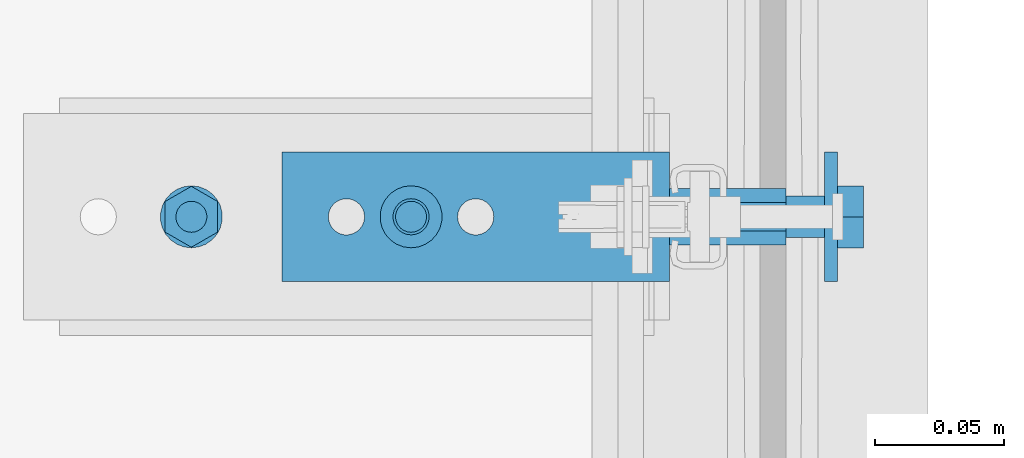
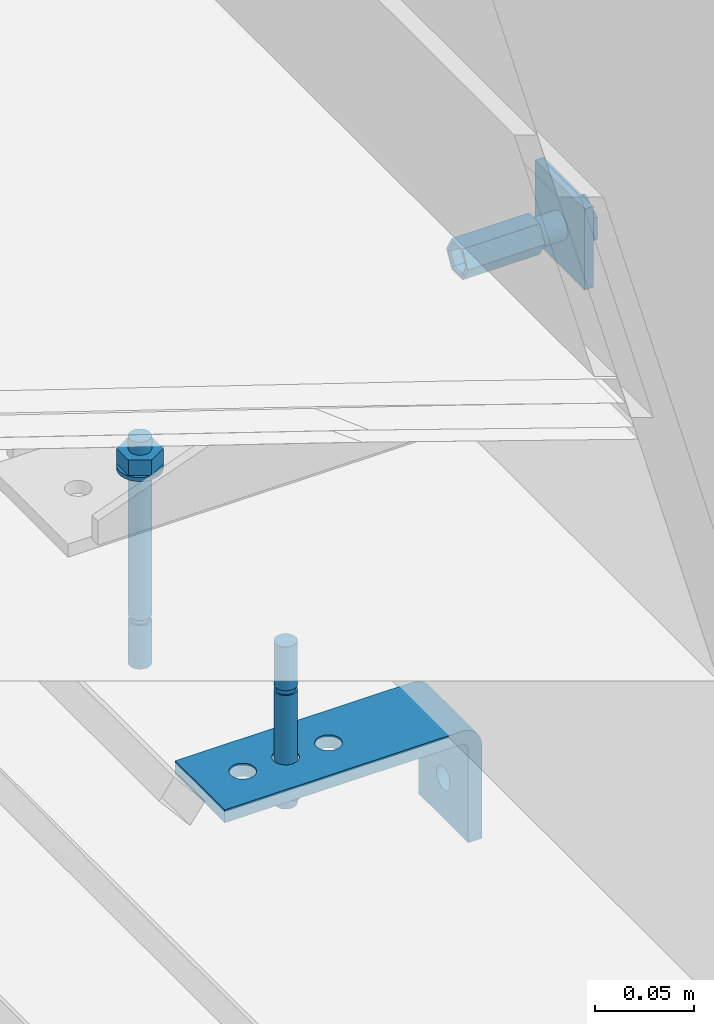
# One storey, part 2 of 17: 4 assemblies, 4 openings.
"""IFC2X3 building model written with IfcOpenShell, lengths in metres."""

from ifc_helpers import new_model, entity, si_unit, converted_unit, derived_unit, direction, frame, frame_2d, origin, place, context, subcontext, project, spatial, polyline, circle_curve, parameter, trimmed, segment, composite_curve, circle, hollow_circle, outline, extrude, faceted_brep, source, transform, mapped, material, type_object, type_shapes, element, save


model = new_model("IFC2X3")

# Units and contexts
model_context = context("Model", 3, precision=1e-05, world=origin(), true_north=direction((6.123031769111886e-17, 1.0)))
plan_context = context("Plan", 3, precision=1e-05, world=origin(), true_north=direction((6.123031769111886e-17, 1.0)))
body_context = subcontext(model_context, "Body", "Model", "MODEL_VIEW")
ifc_project = project(units=[si_unit("LENGTHUNIT", "METRE"), si_unit("AREAUNIT", "SQUARE_METRE"), converted_unit("PLANEANGLEUNIT", "DEGREE", entity("IfcPlaneAngleMeasure", 0.017453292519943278), si_unit("PLANEANGLEUNIT", "RADIAN"), dimensions=[0, 0, 0, 0, 0, 0, 0]), si_unit("VOLUMEUNIT", "CUBIC_METRE"), derived_unit("THERMALTRANSMITTANCEUNIT", [(si_unit("MASSUNIT", "GRAM", prefix="KILO"), 1), (si_unit("THERMODYNAMICTEMPERATUREUNIT", "KELVIN"), -1), (si_unit("TIMEUNIT", "SECOND"), -3)]), derived_unit("USERDEFINED", [(si_unit("MASSUNIT", "GRAM", prefix="KILO"), 1), (si_unit("THERMODYNAMICTEMPERATUREUNIT", "KELVIN"), -1), (si_unit("TIMEUNIT", "SECOND"), -2)]), derived_unit("THERMALRESISTANCEUNIT", [(si_unit("MASSUNIT", "GRAM", prefix="KILO"), -1), (si_unit("TIMEUNIT", "SECOND"), 3), (si_unit("THERMODYNAMICTEMPERATUREUNIT", "KELVIN"), 1)]), si_unit("PRESSUREUNIT", "PASCAL"), derived_unit("MASSDENSITYUNIT", [(si_unit("MASSUNIT", "GRAM", prefix="KILO"), 1), (si_unit("LENGTHUNIT", "METRE"), -3)]), derived_unit("VAPORPERMEABILITYUNIT", [(si_unit("LENGTHUNIT", "METRE"), -1), (si_unit("TIMEUNIT", "SECOND"), 1)]), derived_unit("USERDEFINED", [(si_unit("MASSUNIT", "GRAM", prefix="KILO"), 1), (si_unit("TIMEUNIT", "SECOND"), -3), (si_unit("LENGTHUNIT", "METRE"), 3), (si_unit("ELECTRICCURRENTUNIT", "AMPERE"), -2)])], contexts=[model_context, plan_context])

# Site, building, storey
site_placement = place(None, origin())
site = spatial("IfcSite", under=ifc_project, at=site_placement, Name="Default", CompositionType="ELEMENT")
building_placement = place(site_placement, origin())
building = spatial("IfcBuilding", under=site, at=building_placement, CompositionType="ELEMENT")
storey_placement = place(building_placement, origin())
storey = spatial("IfcBuildingStorey", under=building, at=storey_placement, Name="L0", CompositionType="ELEMENT", Elevation=0.0)

# Assemblies
ifc_material = material(Name="REC_Acero, S 275JR (Zincado)")
type_product_1 = type_object("IfcTypeProduct", Name="REC-HBP M16-75 EV:HBP M16-75 EV", material=ifc_material)
shared_shape_1 = source(origin(), body_context, "Body", "Brep", [
    faceted_brep([(-0.010999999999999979, 0.0, 0.0), (-0.009199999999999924, 0.0, 0.0), (-0.005499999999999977, 0.009526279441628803, 0.0), (-0.005500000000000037, -0.009526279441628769, 0.0), (-0.004600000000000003, -0.007967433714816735, 0.0), (0.004599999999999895, -0.007967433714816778, 0.0), (0.005499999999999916, -0.009526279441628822, 0.0), (0.00919999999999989, 0.0, 0.0), (0.010999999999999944, 0.0, 0.0), (0.0054999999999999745, 0.009526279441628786, 0.0), (0.004599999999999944, 0.00796743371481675, 0.0), (-0.004599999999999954, 0.007967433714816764, 0.0), (0.0039999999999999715, 0.006928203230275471, -0.0008571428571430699), (0.007999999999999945, 0.0, -0.0008571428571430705), (-0.003999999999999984, 0.006928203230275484, -0.0008571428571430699), (-0.007999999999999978, 0.0, -0.0008571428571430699), (-0.004000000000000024, -0.006928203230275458, -0.0008571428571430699), (0.003999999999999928, -0.0069282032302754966, -0.0008571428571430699), (0.003999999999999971, 0.0069282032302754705, -0.04500000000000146), (0.007999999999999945, 0.0, -0.04500000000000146), (-0.003999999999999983, 0.006928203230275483, -0.04500000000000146), (-0.007999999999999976, 0.0, -0.04500000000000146), (-0.004000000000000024, -0.006928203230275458, -0.04500000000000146), (0.003999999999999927, -0.006928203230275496, -0.04500000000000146), (-0.005499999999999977, 0.009526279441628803, -0.04500000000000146), (-0.010999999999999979, 0.0, -0.04500000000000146), (0.0054999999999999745, 0.009526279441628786, -0.04500000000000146), (0.010999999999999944, 0.0, -0.04500000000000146), (0.005499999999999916, -0.009526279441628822, -0.04500000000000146), (-0.005500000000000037, -0.009526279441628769, -0.04500000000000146)], [[[0, 1, 2]], [[1, 0, 3]], [[3, 4, 1]], [[4, 3, 5]], [[6, 5, 3]], [[5, 6, 7]], [[8, 7, 6]], [[7, 8, 9]], [[10, 9, 2]], [[9, 10, 7]], [[11, 2, 1]], [[2, 11, 10]], [[7, 10, 12, 13]], [[10, 11, 14, 12]], [[11, 1, 15, 14]], [[1, 4, 16, 15]], [[4, 5, 17, 16]], [[5, 7, 13, 17]], [[13, 12, 18, 19]], [[12, 14, 20, 18]], [[14, 15, 21, 20]], [[15, 16, 22, 21]], [[16, 17, 23, 22]], [[17, 13, 19, 23]], [[24, 21, 25]], [[21, 24, 20]], [[18, 20, 24]], [[24, 26, 18]], [[19, 18, 26]], [[26, 27, 19]], [[28, 19, 27]], [[19, 28, 23]], [[29, 23, 28]], [[21, 22, 29]], [[23, 29, 22]], [[29, 25, 21]], [[27, 26, 9, 8]], [[26, 24, 2, 9]], [[24, 25, 0, 2]], [[25, 29, 3, 0]], [[29, 28, 6, 3]], [[28, 27, 8, 6]]]),
    faceted_brep([(0.007999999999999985, 0.0, -0.022500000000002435), (0.0077274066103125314, 0.002070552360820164, -0.022500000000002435), (0.006928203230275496, 0.003999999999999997, -0.022500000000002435), (0.005656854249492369, 0.005656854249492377, -0.022500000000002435), (0.0039999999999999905, 0.006928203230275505, -0.022500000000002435), (0.00207055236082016, 0.007727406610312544, -0.022500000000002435), (0.0, 0.008, -0.022500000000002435), (-0.0020705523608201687, 0.0077274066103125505, -0.022500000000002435), (-0.0040000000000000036, 0.006928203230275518, -0.022500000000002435), (-0.005656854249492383, 0.005656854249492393, -0.022500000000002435), (-0.006928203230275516, 0.004000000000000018, -0.022500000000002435), (-0.007727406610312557, 0.0020705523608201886, -0.022500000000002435), (-0.008000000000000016, 0.0, -0.022500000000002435), (-0.007727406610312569, -0.002070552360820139, -0.022500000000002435), (-0.006928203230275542, -0.003999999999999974, -0.022500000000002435), (-0.0056568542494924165, -0.005656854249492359, -0.022500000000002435), (-0.0040000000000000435, -0.006928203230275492, -0.022500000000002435), (-0.002070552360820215, -0.0077274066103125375, -0.022500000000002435), (0.0, -0.008, -0.022500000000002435), (0.0020705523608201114, -0.007727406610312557, -0.022500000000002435), (0.003999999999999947, -0.00692820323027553, -0.022500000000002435), (0.005656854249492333, -0.005656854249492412, -0.022500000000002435), (0.0069282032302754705, -0.004000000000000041, -0.022500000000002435), (0.007727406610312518, -0.002070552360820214, -0.022500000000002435), (0.0, 0.008, -0.060000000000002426), (0.00207055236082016, 0.007727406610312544, -0.060000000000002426), (0.0039999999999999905, 0.006928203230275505, -0.060000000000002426), (0.005656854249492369, 0.005656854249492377, -0.060000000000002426), (0.006928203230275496, 0.003999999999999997, -0.060000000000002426), (0.0077274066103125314, 0.002070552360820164, -0.060000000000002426), (0.007999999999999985, 0.0, -0.060000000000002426), (0.007727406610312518, -0.002070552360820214, -0.060000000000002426), (0.0069282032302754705, -0.004000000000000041, -0.060000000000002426), (0.005656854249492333, -0.005656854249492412, -0.060000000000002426), (0.003999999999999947, -0.00692820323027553, -0.060000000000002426), (0.0020705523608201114, -0.007727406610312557, -0.060000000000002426), (0.0, -0.008, -0.060000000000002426), (-0.002070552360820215, -0.0077274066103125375, -0.060000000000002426), (-0.0040000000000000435, -0.006928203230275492, -0.060000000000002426), (-0.0056568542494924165, -0.005656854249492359, -0.060000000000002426), (-0.006928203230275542, -0.003999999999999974, -0.060000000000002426), (-0.007727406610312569, -0.002070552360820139, -0.060000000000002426), (-0.008000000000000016, 0.0, -0.060000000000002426), (-0.007727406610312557, 0.0020705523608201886, -0.060000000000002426), (-0.006928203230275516, 0.004000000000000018, -0.060000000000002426), (-0.005656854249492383, 0.005656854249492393, -0.060000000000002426), (-0.0040000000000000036, 0.006928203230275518, -0.060000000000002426), (-0.0020705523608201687, 0.0077274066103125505, -0.060000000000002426)], [[[0, 1, 2, 3, 4, 5, 6, 7, 8, 9, 10, 11, 12, 13, 14, 15, 16, 17, 18, 19, 20, 21, 22, 23]], [[24, 25, 26, 27, 28, 29, 30, 31, 32, 33, 34, 35, 36, 37, 38, 39, 40, 41, 42, 43, 44, 45, 46, 47]], [[41, 13, 12, 42]], [[40, 14, 13, 41]], [[16, 15, 39, 38]], [[40, 39, 15, 14]], [[17, 16, 38, 37]], [[18, 17, 37, 36]], [[35, 19, 18, 36]], [[34, 20, 19, 35]], [[22, 21, 33, 32]], [[34, 33, 21, 20]], [[23, 22, 32, 31]], [[0, 23, 31, 30]], [[29, 1, 0, 30]], [[28, 2, 1, 29]], [[4, 3, 27, 26]], [[28, 27, 3, 2]], [[5, 4, 26, 25]], [[6, 5, 25, 24]], [[47, 7, 6, 24]], [[46, 8, 7, 47]], [[10, 9, 45, 44]], [[46, 45, 9, 8]], [[11, 10, 44, 43]], [[12, 11, 43, 42]]]),
    faceted_brep([(0.02499999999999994, 0.025000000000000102, -0.060000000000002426), (-0.024999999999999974, 0.025000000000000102, -0.060000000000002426), (-0.024999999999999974, -0.025000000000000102, -0.060000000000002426), (0.02499999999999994, -0.025000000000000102, -0.060000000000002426), (0.02499999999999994, 0.025000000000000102, -0.06500000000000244), (0.02499999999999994, -0.025000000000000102, -0.06500000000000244), (-0.024999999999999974, -0.025000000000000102, -0.06500000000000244), (-0.024999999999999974, 0.025000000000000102, -0.06500000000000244)], [[[0, 1, 2, 3]], [[4, 5, 6, 7]], [[1, 0, 4, 7]], [[2, 1, 7, 6]], [[3, 2, 6, 5]], [[0, 3, 5, 4]]]),
    faceted_brep([(-0.011999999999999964, 0.00692820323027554, -0.06500000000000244), (-0.011999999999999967, -0.006928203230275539, -0.06500000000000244), (0.0, -0.013856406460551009, -0.06500000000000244), (0.011999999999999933, -0.00692820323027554, -0.06500000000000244), (0.011999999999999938, 0.00692820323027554, -0.06500000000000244), (0.0, 0.01385640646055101, -0.06500000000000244), (-0.011999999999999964, 0.00692820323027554, -0.07500000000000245), (0.0, 0.01385640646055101, -0.07500000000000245), (0.011999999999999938, 0.00692820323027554, -0.07500000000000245), (0.011999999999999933, -0.00692820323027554, -0.07500000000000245), (0.0, -0.013856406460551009, -0.07500000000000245), (-0.011999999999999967, -0.00692820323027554, -0.07500000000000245)], [[[0, 1, 2, 3, 4, 5]], [[6, 7, 8, 9, 10, 11]], [[1, 0, 6, 11]], [[2, 1, 11, 10]], [[3, 2, 10, 9]], [[4, 3, 9, 8]], [[5, 4, 8, 7]], [[0, 5, 7, 6]]]),
])
type_shapes(type_product_1, [shared_shape_1])
assembly_1_placement = place(storey_placement, frame((7.907720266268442, 15.324380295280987, 0.07200000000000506), z_axis=(-1.0, 0.0, 0.0), x_axis=(0.0, -1.0, 0.0)))
element("IfcElementAssembly", 1, at=assembly_1_placement, inside=storey, type_object=type_product_1, material=ifc_material, Name="REC-HBP M16-75 EV:HBP M16-75 EV", ObjectType="REC-HBP M16-75 EV:HBP M16-75 EV", AssemblyPlace="NOTDEFINED", PredefinedType="NOTDEFINED", context=body_context, shape_type="MappedRepresentation", body=[
    mapped(shared_shape_1, transform((0.0, 0.0, 0.0), scale=1.0)),
])
type_product_2 = type_object("IfcTypeProduct", Name="REC-AEM12-140:AEM12-140", material=ifc_material)
shared_shape_2 = source(origin(), body_context, "Body", "SweptSolid", [
    extrude(outline(polyline([(-0.005890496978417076, -0.010202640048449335), (0.005890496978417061, -0.010202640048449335), (0.01178099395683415, 0.0), (0.005890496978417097, 0.010202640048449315), (-0.0058904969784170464, 0.010202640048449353), (-0.011780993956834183, 0.0), (-0.005890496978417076, -0.010202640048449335)]), holes=[composite_curve([segment(trimmed(circle_curve(frame_2d((6.043164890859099e-09, 0.0), x_axis=(1.0, 0.0)), 0.005999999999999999), [parameter(3.053332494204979e-13)], [parameter(180.0)], True, "PARAMETER"), False, "CONTINUOUS"), segment(trimmed(circle_curve(frame_2d((6.043164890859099e-09, 0.0), x_axis=(1.0, 0.0)), 0.005999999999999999), [parameter(179.99999999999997)], [parameter(0.0)], True, "PARAMETER"), False, "CONTINUOUS")], self_intersect=False)]), frame((-6.043164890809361e-09, 0.0, 0.002399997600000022)), (0.0, 0.0, 1.0), 0.009600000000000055),
    extrude(hollow_circle(Radius=0.011999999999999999, WallThickness=0.004999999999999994, at=frame_2d((1.062573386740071e-19, -1.9386534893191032e-17), x_axis=(1.0, 0.0))), origin(), (0.0, 0.0, 1.0), 0.002399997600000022),
    extrude(circle(Radius=0.006, at=frame_2d((1.3218592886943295e-19, -9.69326744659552e-18), x_axis=(1.0, 0.0))), frame((0.0, 0.0, -0.09)), (0.0, 0.0, 1.0), 0.11),
    extrude(circle(Radius=0.006, at=frame_2d((1.3218592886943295e-19, -9.69326744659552e-18), x_axis=(1.0, 0.0))), frame((0.0, 0.0, -0.12)), (0.0, 0.0, 1.0), 0.026999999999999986),
    extrude(circle(Radius=0.005, at=frame_2d((1.3218592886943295e-19, -8.077722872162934e-18), x_axis=(1.0, 0.0))), frame((0.0, 0.0, -0.09300000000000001)), (0.0, 0.0, 1.0), 0.0030000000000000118),
])
type_shapes(type_product_2, [shared_shape_2])
assembly_2_placement = place(storey_placement, frame((7.72272026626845, 15.324380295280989, 0.007999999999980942), z_axis=(0.0, 0.0, 1.0), x_axis=(0.0, -1.0, 0.0)))
element("IfcElementAssembly", 2, at=assembly_2_placement, inside=storey, type_object=type_product_2, material=ifc_material, Name="REC-AEM12-140:AEM12-140", ObjectType="REC-AEM12-140:AEM12-140", AssemblyPlace="NOTDEFINED", PredefinedType="NOTDEFINED", context=body_context, shape_type="MappedRepresentation", body=[
    mapped(shared_shape_2, transform((0.0, 0.0, 0.0), scale=1.0)),
])
type_product_3 = type_object("IfcTypeProduct", Name="REC-AEM12-100:AEM12-100", material=ifc_material)
shared_shape_3 = source(origin(), body_context, "Body", "SweptSolid", [
    extrude(outline(polyline([(-0.005890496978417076, -0.010202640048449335), (0.005890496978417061, -0.010202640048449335), (0.01178099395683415, 0.0), (0.005890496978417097, 0.010202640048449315), (-0.0058904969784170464, 0.010202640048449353), (-0.011780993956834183, 0.0), (-0.005890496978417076, -0.010202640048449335)]), holes=[composite_curve([segment(trimmed(circle_curve(frame_2d((6.043164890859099e-09, 0.0), x_axis=(1.0, 0.0)), 0.005999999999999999), [parameter(3.053332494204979e-13)], [parameter(180.0)], True, "PARAMETER"), False, "CONTINUOUS"), segment(trimmed(circle_curve(frame_2d((6.043164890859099e-09, 0.0), x_axis=(1.0, 0.0)), 0.005999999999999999), [parameter(179.99999999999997)], [parameter(0.0)], True, "PARAMETER"), False, "CONTINUOUS")], self_intersect=False)]), frame((-6.043164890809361e-09, 0.0, 0.002399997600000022)), (0.0, 0.0, 1.0), 0.009600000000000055),
    extrude(hollow_circle(Radius=0.011999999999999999, WallThickness=0.004999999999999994, at=frame_2d((1.062573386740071e-19, -1.9386534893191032e-17), x_axis=(1.0, 0.0))), origin(), (0.0, 0.0, 1.0), 0.002399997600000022),
    extrude(circle(Radius=0.006, at=frame_2d((1.3218592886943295e-19, -9.69326744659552e-18), x_axis=(1.0, 0.0))), frame((0.0, 0.0, -0.05)), (0.0, 0.0, 1.0), 0.07),
    extrude(circle(Radius=0.006, at=frame_2d((1.3218592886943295e-19, -9.69326744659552e-18), x_axis=(1.0, 0.0))), frame((0.0, 0.0, -0.08)), (0.0, 0.0, 1.0), 0.027000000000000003),
    extrude(circle(Radius=0.005, at=frame_2d((1.3218592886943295e-19, -8.077722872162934e-18), x_axis=(1.0, 0.0))), frame((0.0, 0.0, -0.053)), (0.0, 0.0, 1.0), 0.002999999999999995),
])
type_shapes(type_product_3, [shared_shape_3])
assembly_3_placement = place(storey_placement, frame((7.807720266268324, 15.324380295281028, -0.20799999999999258), z_axis=(0.0, 0.0, -1.0), x_axis=(0.0, 1.0, 0.0)))
element("IfcElementAssembly", 3, at=assembly_3_placement, inside=storey, type_object=type_product_3, material=ifc_material, Name="REC-AEM12-100:AEM12-100", ObjectType="REC-AEM12-100:AEM12-100", AssemblyPlace="NOTDEFINED", PredefinedType="NOTDEFINED", context=body_context, shape_type="MappedRepresentation", body=[
    mapped(shared_shape_3, transform((0.0, 0.0, 0.0), scale=1.0)),
])

# Assembly, openings
type_product_4 = type_object("IfcTypeProduct", Name="REC-PAA150708T14:PAA150708T14", material=ifc_material)
shared_shape_4 = source(origin(), body_context, "Body", "SweptSolid", [
    extrude(outline(composite_curve([segment(polyline([(-0.03449999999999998, -0.010499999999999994), (-0.03449999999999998, 0.04750000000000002)]), True, "CONTINUOUS"), segment(polyline([(-0.03449999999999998, 0.04750000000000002), (-0.04249999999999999, 0.04750000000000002)]), True, "CONTINUOUS"), segment(polyline([(-0.04249999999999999, 0.04750000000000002), (-0.042499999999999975, -0.01050000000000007)]), True, "CONTINUOUS"), segment(trimmed(circle_curve(frame_2d((-0.03049999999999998, -0.010499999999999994), x_axis=(1.0, 0.0)), 0.012), [parameter(180.00000000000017)], [parameter(269.99999999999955)], True, "PARAMETER"), True, "CONTINUOUS"), segment(polyline([(-0.03049999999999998, -0.022499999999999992), (0.10750000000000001, -0.022499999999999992)]), True, "CONTINUOUS"), segment(polyline([(0.10750000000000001, -0.022499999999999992), (0.10750000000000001, -0.01449999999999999)]), True, "CONTINUOUS"), segment(polyline([(0.10750000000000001, -0.01449999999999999), (-0.030500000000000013, -0.014499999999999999)]), True, "CONTINUOUS"), segment(trimmed(circle_curve(frame_2d((-0.03049999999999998, -0.010499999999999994), x_axis=(1.0, 0.0)), 0.004), [parameter(180.00000000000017)], [parameter(269.9999999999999)], True, "PARAMETER"), False, "CONTINUOUS")], self_intersect=False)), frame((-0.024999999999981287, 0.0225, 0.042499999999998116), z_axis=(-1.0, 0.0, 0.0), x_axis=(0.0, 0.0, 1.0)), (0.0, 0.0, -1.0), 0.04999999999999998),
])
type_shapes(type_product_4, [shared_shape_4])
assembly_4_placement = place(storey_placement, frame((7.907720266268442, 15.324380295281, -0.19999999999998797), z_axis=(-1.0, 0.0, 0.0), x_axis=(0.0, 1.0, 0.0)))
assembly_4 = element("IfcElementAssembly", 4, at=assembly_4_placement, inside=storey, type_object=type_product_4, material=ifc_material, Name="REC-PAA150708T14:PAA150708T14", ObjectType="REC-PAA150708T14:PAA150708T14", AssemblyPlace="NOTDEFINED", PredefinedType="NOTDEFINED", context=body_context, shape_type="MappedRepresentation", body=[
    mapped(shared_shape_4, transform((0.0, 0.0, 0.0), scale=1.0)),
])
opening_1_placement = place(storey_placement, frame((7.907720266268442, 15.324380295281, -0.19999999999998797), z_axis=(0.0, -1.0, 0.0), x_axis=(0.0, 0.0, -1.0)))
element("IfcOpeningElement", 5, at=opening_1_placement, cuts=assembly_4, Name="REC-PAA150708T14:PAA150708T14:1", ObjectType="Opening", context=body_context, shape_type="SweptSolid", body=[
    extrude(circle(Radius=0.007, at=frame_2d((-1.1948495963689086e-31, 6.726405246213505e-17), x_axis=(1.0, 0.0))), frame((0.008000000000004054, -0.12499999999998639, 0.0), z_axis=(-1.0, 0.0, 0.0), x_axis=(0.0, 1.0, 0.0)), (0.0, 0.0, 1.0), 0.007999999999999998),
])
opening_2_placement = place(storey_placement, frame((7.907720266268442, 15.324380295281, -0.19999999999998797), z_axis=(0.0, -1.0, 0.0), x_axis=(0.0, 0.0, -1.0)))
element("IfcOpeningElement", 6, at=opening_2_placement, cuts=assembly_4, Name="REC-PAA150708T14:PAA150708T14:2", ObjectType="Opening", context=body_context, shape_type="SweptSolid", body=[
    extrude(circle(Radius=0.007, at=frame_2d((-1.1948495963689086e-31, 6.726405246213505e-17), x_axis=(1.0, 0.0))), frame((0.008000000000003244, -0.09999999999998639, 0.0), z_axis=(-1.0, 0.0, 0.0), x_axis=(0.0, 1.0, 0.0)), (0.0, 0.0, 1.0), 0.007999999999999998),
])
opening_3_placement = place(storey_placement, frame((7.907720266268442, 15.324380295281, -0.19999999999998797), z_axis=(0.0, -1.0, 0.0), x_axis=(0.0, 0.0, -1.0)))
element("IfcOpeningElement", 7, at=opening_3_placement, cuts=assembly_4, Name="REC-PAA150708T14:PAA150708T14:3", ObjectType="Opening", context=body_context, shape_type="SweptSolid", body=[
    extrude(circle(Radius=0.007, at=frame_2d((8.459899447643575e-18, 6.726405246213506e-17), x_axis=(1.0, 0.0))), frame((0.008000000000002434, -0.07499999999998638, 0.0), z_axis=(-1.0, 0.0, 0.0), x_axis=(0.0, 1.0, 0.0)), (0.0, 0.0, 1.0), 0.007999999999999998),
])
opening_4_placement = place(storey_placement, frame((7.907720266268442, 15.324380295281, -0.19999999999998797), z_axis=(0.0, -1.0, 0.0), x_axis=(0.0, 0.0, -1.0)))
element("IfcOpeningElement", 8, at=opening_4_placement, cuts=assembly_4, Name="REC-PAA150708T14:PAA150708T14:4", ObjectType="Opening", context=body_context, shape_type="SweptSolid", body=[
    extrude(circle(Radius=0.007, at=frame_2d((0.0, 4.3092116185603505e-17), x_axis=(1.0, 0.0))), frame((0.04500000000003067, 0.0, 0.0), z_axis=(0.0, -1.0, 0.0), x_axis=(-1.0, 0.0, 0.0)), (0.0, 0.0, 1.0), 0.008000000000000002),
])

save(model, "model.ifc")
